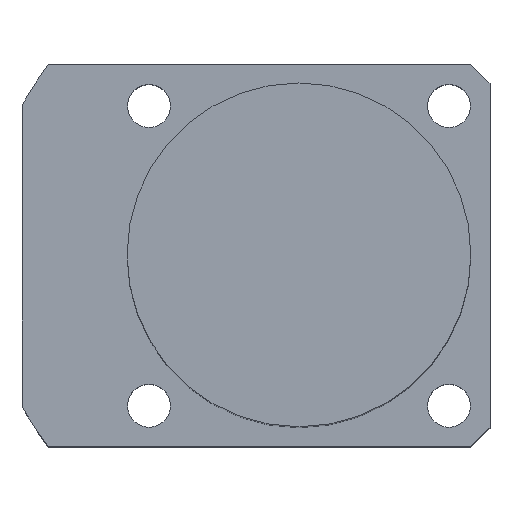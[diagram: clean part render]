
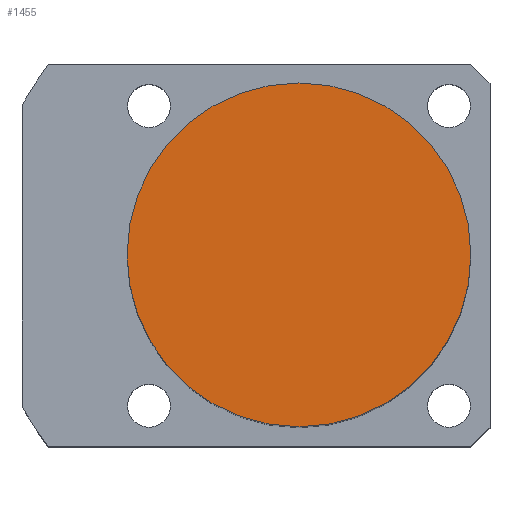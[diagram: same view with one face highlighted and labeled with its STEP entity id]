
A CAD part, top view. The second image highlights one B-rep face of the part: STEP entity #1455.
In plain terms, the highlighted planar face has unit normal (0, 0, 1).
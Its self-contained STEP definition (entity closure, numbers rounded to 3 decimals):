
#1399=CARTESIAN_POINT('',(0.0,-18.0,68.5));
#1400=VERTEX_POINT('',#1399);
#1407=CARTESIAN_POINT('',(-0.0,18.0,68.5));
#1408=VERTEX_POINT('',#1407);
#1409=CARTESIAN_POINT('',(0.0,0.0,68.5));
#1410=DIRECTION('',(0.0,0.0,1.0));
#1411=DIRECTION('',(1.0,0.0,0.0));
#1412=AXIS2_PLACEMENT_3D('',#1409,#1410,#1411);
#1413=CIRCLE('',#1412,18.0);
#1414=EDGE_CURVE('no 1917',#1408,#1400,#1413,.T.);
#1431=CARTESIAN_POINT('',(18.0,0.0,68.5));
#1432=VERTEX_POINT('',#1431);
#1433=CARTESIAN_POINT('',(0.0,0.0,68.5));
#1434=DIRECTION('',(0.0,0.0,1.0));
#1435=DIRECTION('',(1.0,0.0,0.0));
#1436=AXIS2_PLACEMENT_3D('',#1433,#1434,#1435);
#1437=CIRCLE('',#1436,18.0);
#1438=EDGE_CURVE('no 1932',#1432,#1408,#1437,.T.);
#1439=ORIENTED_EDGE('',*,*,#1438,.T.);
#1440=ORIENTED_EDGE('',*,*,#1414,.T.);
#1441=CARTESIAN_POINT('',(0.0,0.0,68.5));
#1442=DIRECTION('',(0.0,0.0,1.0));
#1443=DIRECTION('',(1.0,0.0,0.0));
#1444=AXIS2_PLACEMENT_3D('',#1441,#1442,#1443);
#1445=CIRCLE('',#1444,18.0);
#1446=EDGE_CURVE('no 1938',#1400,#1432,#1445,.T.);
#1447=ORIENTED_EDGE('',*,*,#1446,.T.);
#1448=EDGE_LOOP('',(#1439,#1440,#1447));
#1449=FACE_OUTER_BOUND('',#1448,.T.);
#1450=CARTESIAN_POINT('',(0.0,0.0,68.5));
#1451=DIRECTION('',(0.0,0.0,1.0));
#1452=DIRECTION('',(1.0,0.0,0.0));
#1453=AXIS2_PLACEMENT_3D('',#1450,#1451,#1452);
#1454=PLANE('',#1453);
#1455=ADVANCED_FACE('no 1925',(#1449),#1454,.T.);
